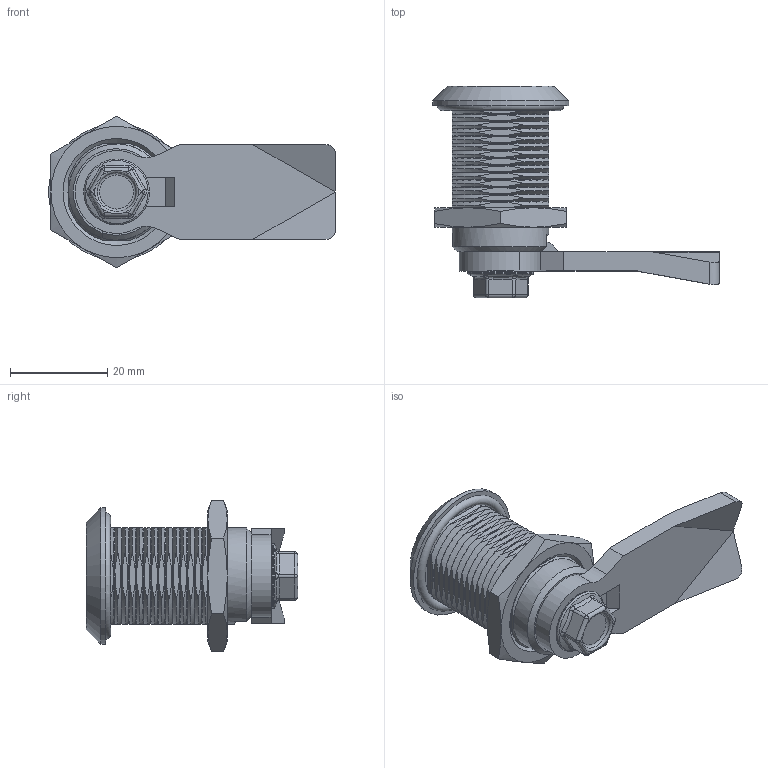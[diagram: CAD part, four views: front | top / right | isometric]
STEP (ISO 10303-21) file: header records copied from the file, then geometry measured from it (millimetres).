
FILE_DESCRIPTION (( 'STEP AP214' ), '1' );
FILE_NAME ('2366-026650-3045-Industrilas.step', '2020-10-12T19:29:49', ( '' ), ( '' ), 'SwSTEP 2.0', 'SolidWorks 2010', '' );
FILE_SCHEMA (( 'AUTOMOTIVE_DESIGN' ));
Length unit declared in the file: millimetre
Products named in the file (9): Housing-211620-Industrilas_Housing-211620-Industrilas; Nut-211620-Industrilas_Nut-211620-Industrilas; Washer-221620-Industrilas_Washer-221620-Industrilas; Screw-221620-Industrilas_Screw-221620-Industrilas; Insert-221620-Industrilas_Insert-221620-Industrilas; Adapter-271103-Industrilas_Adapter-271103-Industrilas; Cam-232109-Industrilas_Cam-232109-Industrilas; Sealing-211620-Industrilas_Sealing-211620-Industrilas; 2366-026650-3045-Industrilas
Assembly tree (8 placements, depth 2):
  2366-026650-3045-Industrilas
    Adapter-271103-Industrilas_Adapter-271103-Industrilas
    Housing-211620-Industrilas_Housing-211620-Industrilas
    Cam-232109-Industrilas_Cam-232109-Industrilas
    Sealing-211620-Industrilas_Sealing-211620-Industrilas
    Washer-221620-Industrilas_Washer-221620-Industrilas
    Nut-211620-Industrilas_Nut-211620-Industrilas
    Insert-221620-Industrilas_Insert-221620-Industrilas
    Screw-221620-Industrilas_Screw-221620-Industrilas
Bounding box: 59 x 43.5 x 31.18 mm (x, y, z)
Volume: 15746.3 mm3; surface area: 14368.9 mm2
Topology: 8 solids, 8 shells, 702 faces, 1785 edges, 1104 vertices
Faces by surface type: plane 269, cylinder 155, bspline 144, cone 120, torus 8, sphere 6
Full cylindrical faces by diameter (mm): 5 x11, 6 x19, 6.2 x1, 9.95 x2, 10 x1, 10.2 x1, 11.8 x1, 12.2 x1, 13.5 x1, 15 x1, 15.7 x1, 15.9 x2, 16 x1, 19.697 x16, 19.8 x1, 20 x2, 28 x1
Entity records: 26280 total; most frequent: CARTESIAN_POINT 11965, ORIENTED_EDGE 3034, DIRECTION 2477, EDGE_CURVE 1517, AXIS2_PLACEMENT_3D 1100, VERTEX_POINT 1013, EDGE_LOOP 896, FACE_OUTER_BOUND 773
